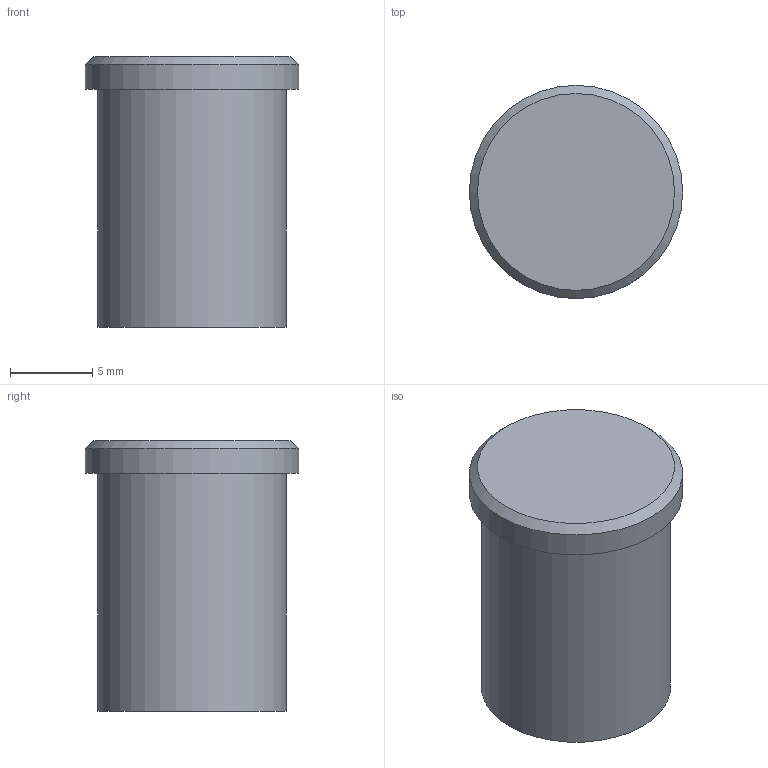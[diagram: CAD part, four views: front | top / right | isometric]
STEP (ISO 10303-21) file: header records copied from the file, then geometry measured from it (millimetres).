
FILE_DESCRIPTION (( 'STEP AP214' ), '1' );
FILE_NAME ('ﾂﾇﾊﾂ1ﾀ.STEP', '2021-05-19T08:07:58', ( '' ), ( '' ), 'SwSTEP 2.0', 'SolidWorks 2018', '' );
FILE_SCHEMA (( 'AUTOMOTIVE_DESIGN' ));
Length unit declared in the file: millimetre
Products named in the file (1): ﾂﾇﾊﾂ1ﾀ
Bounding box: 13 x 13 x 16.5 mm (x, y, z)
Volume: 1385 mm3; surface area: 1093.6 mm2
Topology: 1 solids, 1 shells, 8 faces, 11 edges, 7 vertices
Faces by surface type: plane 4, cylinder 3, cone 1
Full cylindrical faces by diameter (mm): 6.5 x1, 11.5 x1, 13 x1
Entity records: 188 total; most frequent: DIRECTION 32, CARTESIAN_POINT 23, AXIS2_PLACEMENT_3D 16, ORIENTED_EDGE 14, EDGE_LOOP 14, FACE_OUTER_BOUND 11, ADVANCED_FACE 8, VERTEX_POINT 7
